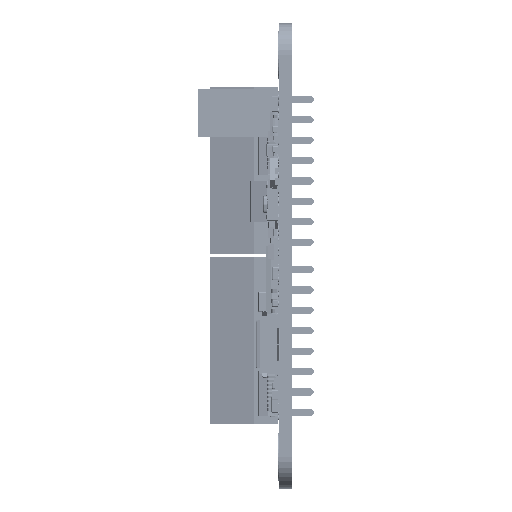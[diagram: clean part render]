
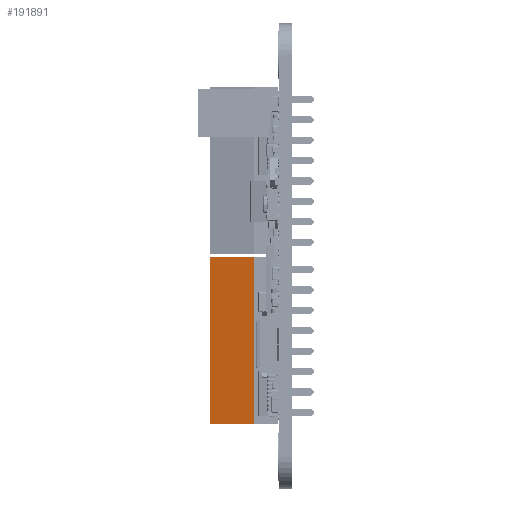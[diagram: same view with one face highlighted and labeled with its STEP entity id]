
A CAD part, left-side view. The second image highlights one B-rep face of the part: STEP entity #191891.
In plain terms, the highlighted planar face has unit normal (-0.977, 0.213, 0) as drawn and (0.977, 0.213, 0) by its records, which use the part's own axes.
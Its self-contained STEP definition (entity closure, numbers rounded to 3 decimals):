
#66681 = AXIS2_PLACEMENT_3D ( 'NONE', #73818, #73820, #73822 ) ;
#71298 = FACE_OUTER_BOUND ( 'NONE', #168566, .T. ) ;
#73815 = PLANE ( 'NONE',  #66681 ) ;
#73818 = CARTESIAN_POINT ( 'NONE',  ( 3.1, 3., 7.62 ) ) ;
#73820 = DIRECTION ( 'NONE',  ( 0.977, 0.213, 0. ) ) ;
#73822 = DIRECTION ( 'NONE',  ( -0.213, 0.977, 0. ) ) ;
#168566 = EDGE_LOOP ( 'NONE', ( #233640, #233647, #233655, #233663 ) ) ;
#191891 = ADVANCED_FACE ( 'NONE', ( #71298 ), #73815, .T. ) ;
#228619 = EDGE_CURVE ( 'NONE', #369569, #369571, #395295, .T. ) ;
#228671 = EDGE_CURVE ( 'NONE', #369598, #369595, #395450, .T. ) ;
#228677 = EDGE_CURVE ( 'NONE', #369571, #369595, #395466, .T. ) ;
#228680 = EDGE_CURVE ( 'NONE', #369598, #369569, #395475, .T. ) ;
#233640 = ORIENTED_EDGE ( 'NONE', *, *, #228671, .T. ) ;
#233647 = ORIENTED_EDGE ( 'NONE', *, *, #228677, .F. ) ;
#233655 = ORIENTED_EDGE ( 'NONE', *, *, #228619, .F. ) ;
#233663 = ORIENTED_EDGE ( 'NONE', *, *, #228680, .F. ) ;
#345560 = CARTESIAN_POINT ( 'NONE',  ( 3.1, 3., -10.39 ) ) ;
#345563 = CARTESIAN_POINT ( 'NONE',  ( 3.1, 3., 10.39 ) ) ;
#345801 = CARTESIAN_POINT ( 'NONE',  ( 1.9, 8.5, 10.39 ) ) ;
#345823 = CARTESIAN_POINT ( 'NONE',  ( 1.9, 8.5, -10.39 ) ) ;
#369569 = VERTEX_POINT ( 'NONE', #345560 ) ;
#369571 = VERTEX_POINT ( 'NONE', #345563 ) ;
#369595 = VERTEX_POINT ( 'NONE', #345801 ) ;
#369598 = VERTEX_POINT ( 'NONE', #345823 ) ;
#395295 = LINE ( 'NONE', #403243, #395305 ) ;
#395305 = VECTOR ( 'NONE', #403245, 1000. ) ;
#395450 = LINE ( 'NONE', #403341, #395454 ) ;
#395454 = VECTOR ( 'NONE', #403342, 1000. ) ;
#395466 = LINE ( 'NONE', #403351, #395471 ) ;
#395471 = VECTOR ( 'NONE', #403353, 1000. ) ;
#395475 = LINE ( 'NONE', #403357, #395479 ) ;
#395479 = VECTOR ( 'NONE', #403359, 1000. ) ;
#403243 = CARTESIAN_POINT ( 'NONE',  ( 3.1, 3., 7.62 ) ) ;
#403245 = DIRECTION ( 'NONE',  ( 0., 0., 1. ) ) ;
#403341 = CARTESIAN_POINT ( 'NONE',  ( 1.9, 8.5, 7.62 ) ) ;
#403342 = DIRECTION ( 'NONE',  ( 0., 0., 1. ) ) ;
#403351 = CARTESIAN_POINT ( 'NONE',  ( 3.1, 3., 10.39 ) ) ;
#403353 = DIRECTION ( 'NONE',  ( -0.213, 0.977, 0. ) ) ;
#403357 = CARTESIAN_POINT ( 'NONE',  ( 1.9, 8.5, -10.39 ) ) ;
#403359 = DIRECTION ( 'NONE',  ( 0.213, -0.977, 0. ) ) ;
